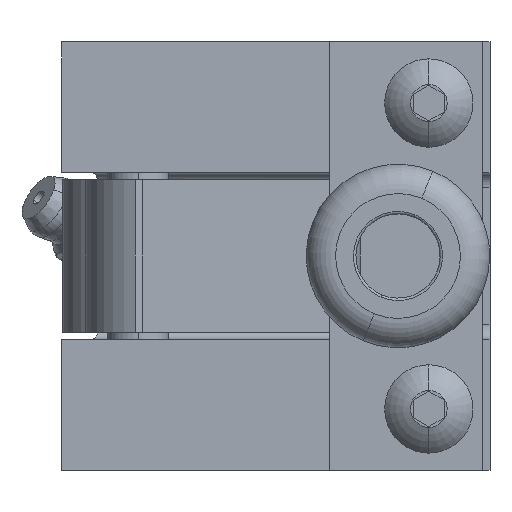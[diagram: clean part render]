
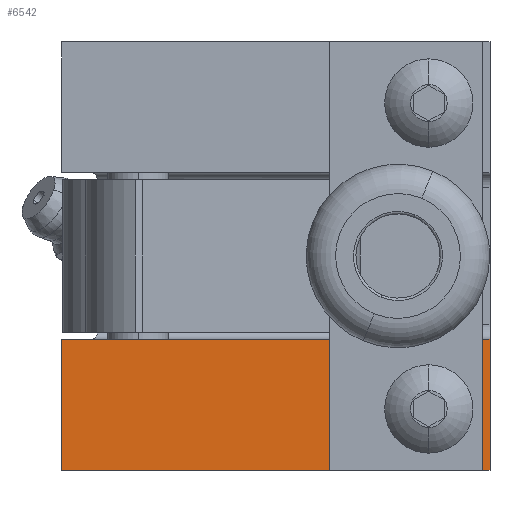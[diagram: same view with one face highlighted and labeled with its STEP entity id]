
A CAD part, left-side view. The second image highlights one B-rep face of the part: STEP entity #6542.
In plain terms, the highlighted planar face has unit normal (-1, 0, 0).
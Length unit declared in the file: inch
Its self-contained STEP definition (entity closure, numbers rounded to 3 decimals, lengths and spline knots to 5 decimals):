
#5231 = EDGE_CURVE ( 'NONE', #5342, #5233, #7329, .T. ) ;
#5233 = VERTEX_POINT ( 'NONE', #7324 ) ;
#5342 = VERTEX_POINT ( 'NONE', #7549 ) ;
#6542 = ADVANCED_FACE ( 'NONE', ( #10337, #10336 ), #10335, .T. ) ;
#6578 = EDGE_CURVE ( 'NONE', #5233, #5342, #10417, .T. ) ;
#6601 = ORIENTED_EDGE ( 'NONE', *, *, #5231, .F. ) ;
#6602 = EDGE_LOOP ( 'NONE', ( #6603, #6731, #6723, #6753 ) ) ;
#6603 = ORIENTED_EDGE ( 'NONE', *, *, #6604, .F. ) ;
#6604 = EDGE_CURVE ( 'NONE', #6605, #6650, #10489, .T. ) ;
#6605 = VERTEX_POINT ( 'NONE', #10485 ) ;
#6650 = VERTEX_POINT ( 'NONE', #10543 ) ;
#6652 = EDGE_CURVE ( 'NONE', #6653, #6650, #10542, .T. ) ;
#6653 = VERTEX_POINT ( 'NONE', #10602 ) ;
#6666 = EDGE_LOOP ( 'NONE', ( #13415, #6601 ) ) ;
#6674 = EDGE_CURVE ( 'NONE', #6733, #6653, #10635, .T. ) ;
#6723 = ORIENTED_EDGE ( 'NONE', *, *, #6674, .T. ) ;
#6731 = ORIENTED_EDGE ( 'NONE', *, *, #6732, .F. ) ;
#6732 = EDGE_CURVE ( 'NONE', #6733, #6605, #10696, .T. ) ;
#6733 = VERTEX_POINT ( 'NONE', #10746 ) ;
#6753 = ORIENTED_EDGE ( 'NONE', *, *, #6652, .T. ) ;
#7324 = CARTESIAN_POINT ( 'NONE',  ( 7.4273, 3.84026, -1.40625 ) ) ;
#7325 = DIRECTION ( 'NONE',  ( 0., 0., 1. ) ) ;
#7326 = DIRECTION ( 'NONE',  ( -1., 0., 0. ) ) ;
#7327 = CARTESIAN_POINT ( 'NONE',  ( 7.4273, 3.84026, -1.5 ) ) ;
#7328 = AXIS2_PLACEMENT_3D ( 'NONE', #7327, #7326, #7325 ) ;
#7329 = CIRCLE ( 'NONE', #7328, 0.09375 ) ;
#7549 = CARTESIAN_POINT ( 'NONE',  ( 7.4273, 3.84026, -1.59375 ) ) ;
#10331 = DIRECTION ( 'NONE',  ( 0., 0., 1. ) ) ;
#10332 = DIRECTION ( 'NONE',  ( -1., 0., 0. ) ) ;
#10333 = CARTESIAN_POINT ( 'NONE',  ( 7.4273, 3.59026, -1.75 ) ) ;
#10334 = AXIS2_PLACEMENT_3D ( 'NONE', #10333, #10332, #10331 ) ;
#10335 = PLANE ( 'NONE',  #10334 ) ;
#10336 = FACE_OUTER_BOUND ( 'NONE', #6602, .T. ) ;
#10337 = FACE_BOUND ( 'NONE', #6666, .T. ) ;
#10415 = CARTESIAN_POINT ( 'NONE',  ( 7.4273, 3.84026, -1.5 ) ) ;
#10416 = AXIS2_PLACEMENT_3D ( 'NONE', #10415, #10473, #10472 ) ;
#10417 = CIRCLE ( 'NONE', #10416, 0.09375 ) ;
#10472 = DIRECTION ( 'NONE',  ( 0., 0., 1. ) ) ;
#10473 = DIRECTION ( 'NONE',  ( -1., 0., 0. ) ) ;
#10485 = CARTESIAN_POINT ( 'NONE',  ( 7.4273, 5.34026, -1.215 ) ) ;
#10486 = DIRECTION ( 'NONE',  ( 0., -1., 0. ) ) ;
#10487 = VECTOR ( 'NONE', #10486, 39.37008 ) ;
#10488 = CARTESIAN_POINT ( 'NONE',  ( 7.4273, 3.59026, -1.215 ) ) ;
#10489 = LINE ( 'NONE', #10488, #10487 ) ;
#10541 = CARTESIAN_POINT ( 'NONE',  ( 7.4273, 3.59026, -1.75 ) ) ;
#10542 = LINE ( 'NONE', #10541, #10604 ) ;
#10543 = CARTESIAN_POINT ( 'NONE',  ( 7.4273, 3.59026, -1.215 ) ) ;
#10602 = CARTESIAN_POINT ( 'NONE',  ( 7.4273, 3.59026, -1.75 ) ) ;
#10603 = DIRECTION ( 'NONE',  ( 0., 0., 1. ) ) ;
#10604 = VECTOR ( 'NONE', #10603, 39.37008 ) ;
#10632 = DIRECTION ( 'NONE',  ( 0., -1., 0. ) ) ;
#10633 = VECTOR ( 'NONE', #10632, 39.37008 ) ;
#10634 = CARTESIAN_POINT ( 'NONE',  ( 7.4273, 3.59026, -1.75 ) ) ;
#10635 = LINE ( 'NONE', #10634, #10633 ) ;
#10696 = LINE ( 'NONE', #10749, #10748 ) ;
#10746 = CARTESIAN_POINT ( 'NONE',  ( 7.4273, 5.34026, -1.75 ) ) ;
#10747 = DIRECTION ( 'NONE',  ( 0., 0., 1. ) ) ;
#10748 = VECTOR ( 'NONE', #10747, 39.37008 ) ;
#10749 = CARTESIAN_POINT ( 'NONE',  ( 7.4273, 5.34026, -1.75 ) ) ;
#13415 = ORIENTED_EDGE ( 'NONE', *, *, #6578, .F. ) ;
